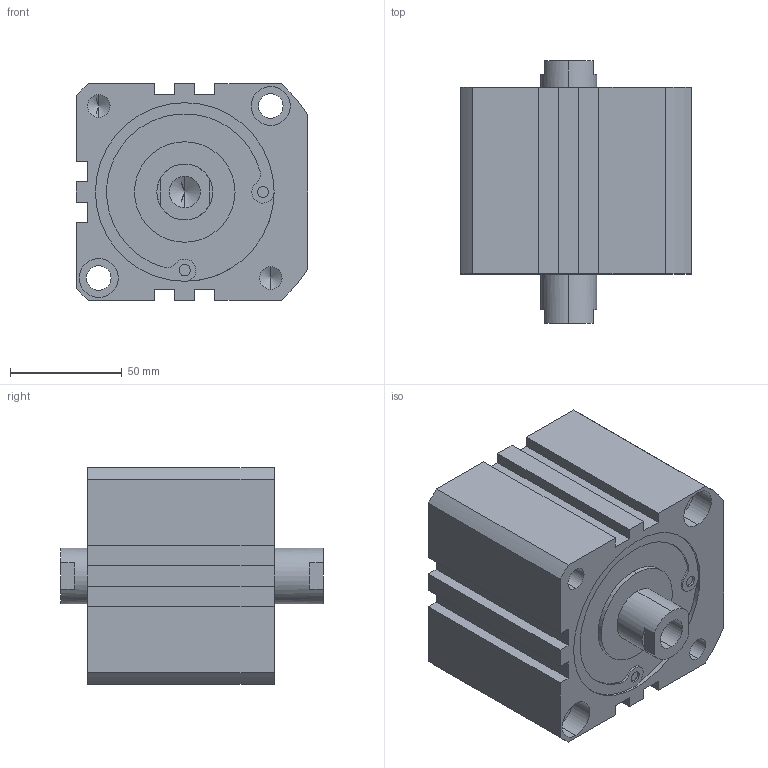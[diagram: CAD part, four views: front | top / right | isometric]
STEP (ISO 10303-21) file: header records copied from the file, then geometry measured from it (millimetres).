
FILE_DESCRIPTION (( 'STEP AP203' ), '1' );
FILE_NAME ('XG#7-80D-10.STEP', '2016-05-24T02:01:07', ( '' ), ( '' ), 'SwSTEP 2.0', 'SolidWorks 2014', '' );
FILE_SCHEMA (( 'CONFIG_CONTROL_DESIGN' ));
Length unit declared in the file: millimetre
Products named in the file (1): XG#7-80D-10
Bounding box: 103.5 x 117.5 x 97 mm (x, y, z)
Volume: 758983.1 mm3; surface area: 74146.9 mm2
Topology: 1 solids, 1 shells, 142 faces, 354 edges, 222 vertices
Faces by surface type: cylinder 66, plane 56, cone 20
Entity records: 4237 total; most frequent: DIRECTION 774, CARTESIAN_POINT 703, ORIENTED_EDGE 676, EDGE_CURVE 338, AXIS2_PLACEMENT_3D 293, VERTEX_POINT 222, VECTOR 188, LINE 188
